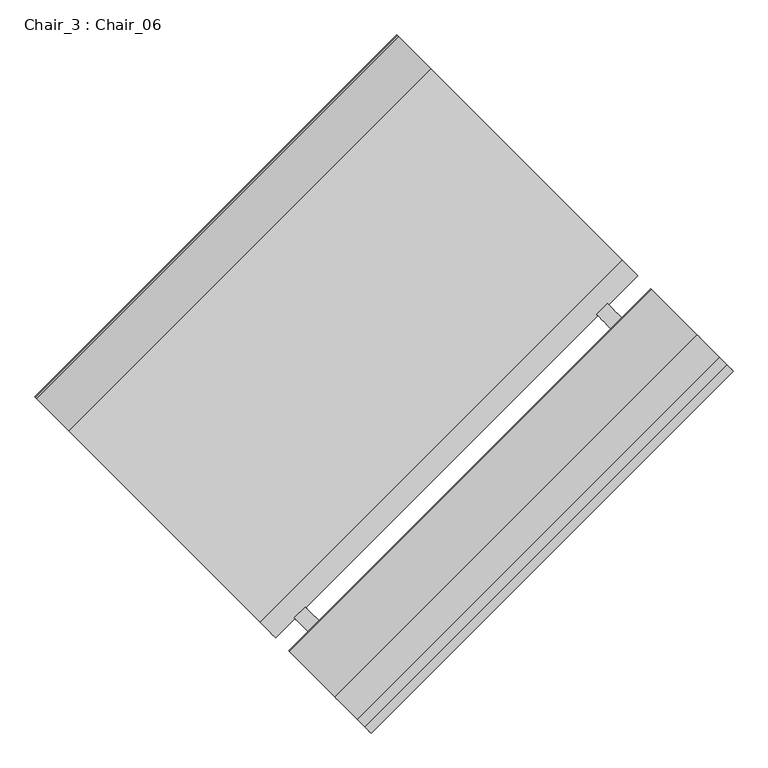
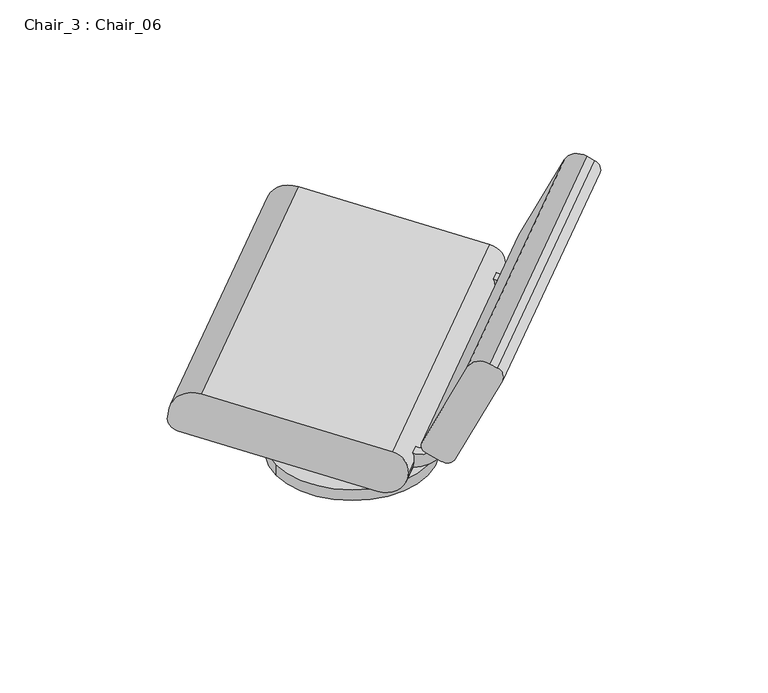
"""IFC4 building model written with IfcOpenShell, lengths in millimetres: furniture geometry, Chair_3 : Chair_06."""

import ifcopenshell
import ifcopenshell.guid

model = None  # the IFC model being written
_history = None  # IfcOwnerHistory: only IFC2X3 demands one
_inside = {}  # id of a spatial element -> (the spatial element, [elements in it])
_under = {}  # id of a project, library or spatial element -> (it, [spatial elements below it])
_declared = {}  # id of a project -> (the project, [libraries it declares])
_typed = {}  # id of a type object -> (the type object, [elements of that type])
_made_of = {}  # id of a material, layer set ... -> (it, [elements and type objects made of it])


def new_model(schema):
    """Start an empty IFC model of exactly this schema.

    Asked for "IFC4X3", IfcOpenShell would pick the latest addendum, in which some entities
    have other attributes; the version numbers below select the first issue.
    IFC2X3 requires an IfcOwnerHistory on every rooted entity: one is made here for all.
    """
    global model, _history
    if schema == "IFC4X3":
        model = ifcopenshell.file(schema_version=(4, 3, 0, 0))
    else:
        model = ifcopenshell.file(schema=schema)
    _inside.clear()
    _under.clear()
    _declared.clear()
    _typed.clear()
    _made_of.clear()
    _history = None
    if model.schema == "IFC2X3":
        org = make("IfcOrganization", Name="unknown")
        user = make(
            "IfcPersonAndOrganization",
            ThePerson=make("IfcPerson", FamilyName="unknown"),
            TheOrganization=org,
        )
        app = make(
            "IfcApplication",
            ApplicationDeveloper=org,
            Version="unknown",
            ApplicationFullName="unknown",
            ApplicationIdentifier="unknown",
        )
        _history = make(
            "IfcOwnerHistory",
            OwningUser=user,
            OwningApplication=app,
            ChangeAction="ADDED",
            CreationDate=0,
        )
    return model


def make(cls, **values):
    """One entity of the class cls with the attributes given. An attribute that is None is left unset."""
    return model.create_entity(
        cls, **{name: value for name, value in values.items() if value is not None}
    )


def rooted(cls, **values):
    """An entity with a GlobalId (a new one), such as an element, a storey or a relation."""
    return make(cls, GlobalId=ifcopenshell.guid.new(), OwnerHistory=_history, **values)


def si_unit(unit_type, name, prefix=None):
    """IfcSIUnit, for example si_unit("LENGTHUNIT", "METRE", prefix="MILLI")."""
    return make("IfcSIUnit", UnitType=unit_type, Prefix=prefix, Name=name)


def assignment(units):
    """IfcUnitAssignment: the units of a project."""
    return None if units is None else make("IfcUnitAssignment", Units=units)


def point(xyz):
    """IfcCartesianPoint."""
    return None if xyz is None else make("IfcCartesianPoint", Coordinates=xyz)


def direction(xyz):
    """IfcDirection."""
    return None if xyz is None else make("IfcDirection", DirectionRatios=xyz)


def frame(location, z_axis=None, x_axis=None):
    """IfcAxis2Placement3D, a coordinate frame: its origin and axes. An axis left out is left unset."""
    return make(
        "IfcAxis2Placement3D",
        Location=point(location),
        Axis=direction(z_axis),
        RefDirection=direction(x_axis),
    )


def frame_2d(location, x_axis=None):
    """IfcAxis2Placement2D, a coordinate frame in the plane: its origin and x axis."""
    return make(
        "IfcAxis2Placement2D", Location=point(location), RefDirection=direction(x_axis)
    )


def origin():
    """The frame at (0, 0, 0) with its axes left unset."""
    return frame((0.0, 0.0, 0.0))


def place(relative_to, where):
    """IfcLocalPlacement: puts the frame where relative to a parent placement (None: the world)."""
    return make(
        "IfcLocalPlacement", PlacementRelTo=relative_to, RelativePlacement=where
    )


def context(
    kind, dimensions, precision=None, world=None, true_north=None, identifier=None
):
    """IfcGeometricRepresentationContext, for example the 3D "Model" context."""
    return make(
        "IfcGeometricRepresentationContext",
        ContextIdentifier=identifier,
        ContextType=kind,
        CoordinateSpaceDimension=dimensions,
        Precision=precision,
        WorldCoordinateSystem=world,
        TrueNorth=true_north,
    )


def project(units=None, contexts=None):
    """IfcProject with its units and contexts."""
    return rooted(
        "IfcProject",
        Name="project",
        RepresentationContexts=contexts,
        UnitsInContext=assignment(units),
    )


def spatial(cls, under=None, at=None, **own):
    """A site, building, storey or space (cls), placed at a placement, below another one or the project."""
    s = rooted(cls, ObjectPlacement=at, **own)
    if under is not None:
        _under.setdefault(under.id(), (under, []))[1].append(s)
    return s


def polyline(points):
    """IfcPolyline through the points."""
    return make("IfcPolyline", Points=[point(p) for p in points])


def circle_curve(where, radius):
    """IfcCircle in the frame where."""
    return make("IfcCircle", Position=where, Radius=radius)


def ellipse_curve(where, semi_axis1, semi_axis2):
    """IfcEllipse in the frame where."""
    return make(
        "IfcEllipse", Position=where, SemiAxis1=semi_axis1, SemiAxis2=semi_axis2
    )


def trimmed(basis, trim1, trim2, sense, master):
    """IfcTrimmedCurve: the piece of a basis curve between two trims."""
    return make(
        "IfcTrimmedCurve",
        BasisCurve=basis,
        Trim1=trim1,
        Trim2=trim2,
        SenseAgreement=sense,
        MasterRepresentation=master,
    )


def segment(curve, same_sense, transition):
    """IfcCompositeCurveSegment."""
    return make(
        "IfcCompositeCurveSegment",
        Transition=transition,
        SameSense=same_sense,
        ParentCurve=curve,
    )


def composite_curve(segments, self_intersect=None):
    """IfcCompositeCurve: segments joined end to end."""
    return make("IfcCompositeCurve", Segments=segments, SelfIntersect=self_intersect)


def outline(outer, holes=None, kind="AREA"):
    """IfcArbitraryClosedProfileDef: a profile drawn as a closed curve; with holes, ...WithVoids."""
    if holes is None:
        return make("IfcArbitraryClosedProfileDef", ProfileType=kind, OuterCurve=outer)
    return make(
        "IfcArbitraryProfileDefWithVoids",
        ProfileType=kind,
        OuterCurve=outer,
        InnerCurves=holes,
    )


def extrude(swept, where, along, depth):
    """IfcExtrudedAreaSolid: the profile swept, set in the frame where, extruded along a direction by depth."""
    return make(
        "IfcExtrudedAreaSolid",
        SweptArea=swept,
        Position=where,
        ExtrudedDirection=direction(along),
        Depth=depth,
    )


def shape(context_of_items, identifier, shape_type, items):
    """IfcShapeRepresentation: the items that make up one representation, for example the "Body"."""
    return make(
        "IfcShapeRepresentation",
        ContextOfItems=context_of_items,
        RepresentationIdentifier=identifier,
        RepresentationType=shape_type,
        Items=items,
    )


def source(mapping_origin, context_of_items, identifier, shape_type, items):
    """IfcRepresentationMap: a shape defined once, which mapped items show again and again."""
    return make(
        "IfcRepresentationMap",
        MappingOrigin=mapping_origin,
        MappedRepresentation=shape(context_of_items, identifier, shape_type, items),
    )


def transform(
    local_origin,
    x_axis=None,
    y_axis=None,
    z_axis=None,
    scale=None,
    scale2=None,
    scale3=None,
    uniform=True,
):
    """IfcCartesianTransformationOperator3D, or its non-uniform kind. x_axis, y_axis, z_axis: its Axis1, 2, 3."""
    if uniform:
        return make(
            "IfcCartesianTransformationOperator3D",
            Axis1=direction(x_axis),
            Axis2=direction(y_axis),
            LocalOrigin=point(local_origin),
            Scale=scale,
            Axis3=direction(z_axis),
        )
    return make(
        "IfcCartesianTransformationOperator3DnonUniform",
        Axis1=direction(x_axis),
        Axis2=direction(y_axis),
        LocalOrigin=point(local_origin),
        Scale=scale,
        Axis3=direction(z_axis),
        Scale2=scale2,
        Scale3=scale3,
    )


def mapped(mapping_source, mapping_target):
    """IfcMappedItem: shows the shape of a source again, moved by a transform."""
    return make(
        "IfcMappedItem", MappingSource=mapping_source, MappingTarget=mapping_target
    )


def made_of(thing, what):
    """Note that an element or type object is made of a material, layer set ...; save() writes the relation."""
    if what is not None:
        _made_of.setdefault(what.id(), (what, []))[1].append(thing)
    return thing


def element(
    cls,
    number,
    at=None,
    inside=None,
    cuts=None,
    type_object=None,
    material=None,
    context=None,
    identifier="Body",
    shape_type=None,
    held_by="IfcProductDefinitionShape",
    body=None,
    shapes=None,
    **own,
):
    """One element of the class cls, such as IfcWall. Its Tag is "e" and its number.

    at: its placement. inside: the storey or other place that contains it. cuts: it is an
    opening in that element (IfcRelVoidsElement). A single representation is given by context,
    identifier, shape_type and body (its items); several are given by shapes. held_by: the class
    of the entity that holds the representations. save() writes the other relations.
    """
    e = rooted(cls, Tag="e%d" % number, ObjectPlacement=at, **own)
    if body is not None:
        shapes = [shape(context, identifier, shape_type, body)]
    if shapes is not None:
        e.Representation = make(held_by, Representations=shapes)
    if inside is not None:
        _inside.setdefault(inside.id(), (inside, []))[1].append(e)
    if cuts is not None:
        rooted(
            "IfcRelVoidsElement", RelatingBuildingElement=cuts, RelatedOpeningElement=e
        )
    if type_object is not None:
        _typed.setdefault(type_object.id(), (type_object, []))[1].append(e)
    return made_of(e, material)


def aggregate(whole, parts):
    """IfcRelAggregates: a whole, such as a stair, and the parts it consists of."""
    return rooted("IfcRelAggregates", RelatingObject=whole, RelatedObjects=parts)


def save(model, path):
    """Write the relations noted so far, then the file.

    IfcRelAggregates (storeys below a building ...), IfcRelContainedInSpatialStructure (elements
    in a storey), IfcRelDefinesByType, IfcRelAssociatesMaterial and IfcRelDeclares: one each for
    every whole, place, type object, material and project.
    """
    for whole, parts in _under.values():
        aggregate(whole, parts)
    for where, things in _inside.values():
        rooted(
            "IfcRelContainedInSpatialStructure",
            RelatedElements=things,
            RelatingStructure=where,
        )
    for kind, things in _typed.values():
        rooted("IfcRelDefinesByType", RelatedObjects=things, RelatingType=kind)
    for what, things in _made_of.values():
        rooted("IfcRelAssociatesMaterial", RelatedObjects=things, RelatingMaterial=what)
    for by, libraries in _declared.values():
        rooted("IfcRelDeclares", RelatingContext=by, RelatedDefinitions=libraries)
    model.write(path)


def plane_surface(at):
    """IfcPlane: the flat surface through the origin of the frame at, square to its z axis."""
    return make("IfcPlane", Position=at)


def cylinder_surface(at, radius):
    """IfcCylindricalSurface: all points at the distance radius from the z axis of the frame at."""
    return make("IfcCylindricalSurface", Position=at, Radius=radius)


def advanced_brep(points, edges, surfaces, faces):
    """IfcAdvancedBrep: a solid bounded by faces that lie on surfaces and meet in shared edges.

    An edge is (start, end): straight between two places in points (the first is 0);
    or (start, end, curve); or (start, end, curve, False) where it runs against its curve.
    A face is (place in surfaces, loops), or (place, loops, False) where it looks against
    its surface's normal. A loop lists edges by number (the first is 1), with a minus sign
    where the edge is run from its end to its start. The first loop is the outer one.
    """
    corners = [point(p) for p in points]
    vertices = [make("IfcVertexPoint", VertexGeometry=c) for c in corners]
    made = []
    for start, end, *more in edges:
        made.append(
            make(
                "IfcEdgeCurve",
                EdgeStart=vertices[start],
                EdgeEnd=vertices[end],
                EdgeGeometry=more[0] if more else make("IfcPolyline", Points=[corners[start], corners[end]]),
                SameSense=more[1] if len(more) > 1 else True,
            )
        )
    hull = []
    for where, loops, *sense in faces:
        bounds = []
        for j, loop in enumerate(loops):
            ring = [make("IfcOrientedEdge", EdgeElement=made[abs(k) - 1], Orientation=k > 0) for k in loop]
            bounds.append(
                make(
                    "IfcFaceOuterBound" if j == 0 else "IfcFaceBound",
                    Bound=make("IfcEdgeLoop", EdgeList=ring),
                    Orientation=True,
                )
            )
        hull.append(make("IfcAdvancedFace", Bounds=bounds, FaceSurface=surfaces[where], SameSense=sense[0] if sense else True))
    return make("IfcAdvancedBrep", Outer=make("IfcClosedShell", CfsFaces=hull))


def chair_3_chair_06_9fddb003(model_context):
    return source(origin(), model_context, "Body", "SolidModel", [
        advanced_brep(
        [(-1787.0925533, 12585.0920901, 8110.0251231), (-1727.0925533, 12585.0920901, 8110.0251231), (-1727.0925533, 12585.0920901, 8323.74706), (-1787.0925533, 12585.0920901, 8331.2279802), (-1952.2157383, 12580.2152751, 8110.0251231), (-1552.2157383, 12580.2152751, 8110.0251231), (-1952.2157383, 12580.2152751, 8080.0), (-1552.2157383, 12580.2152751, 8080.0), (-1305.5981526, 12724.6783945, 8410.4493871), (-1279.7872129, 12698.8674549, 8358.3188702), (-1281.62903, 12700.7092719, 8343.5467539), (-1330.7781527, 12749.8583946, 8294.8771794), (-1665.0272163, 13084.1074583, 8378.2268654), (-1682.2345094, 13101.3147513, 8412.9805434), (-1679.1648143, 13098.2450562, 8437.6007372), (-1625.9199314, 13045.0001734, 8490.3261096), (-1911.3664543, 12118.9100928, 8410.4493871), (-2231.6882332, 12439.2318716, 8490.3261096), (-2284.9331161, 12492.4767545, 8437.6007372), (-2288.0028112, 12495.5464496, 8412.9805434), (-2270.7955181, 12478.3391565, 8378.2268654), (-1936.5464544, 12144.0900928, 8294.8771794), (-1887.3973317, 12094.9409702, 8343.5467539), (-1885.5555147, 12093.0991531, 8358.3188702)],
        [
            (0, 1, circle_curve(frame((-1757.0925533, 12585.0920901, 8110.0251231), z_axis=(0.0, 0.0, 1.0), x_axis=(1.0, 0.0, 0.0)), 30.0)),
            (1, 2),
            (2, 3, ellipse_curve(frame((-1757.0925533, 12585.0920901, 8327.4875201), z_axis=(-0.1227878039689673, 0.12278780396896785, -0.9848077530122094), x_axis=(-0.6963642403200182, 0.6963642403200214, 0.17364817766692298)), 30.4627984, 30.0)),
            (3, 0),
            (1, 0, circle_curve(frame((-1757.0925533, 12585.0920901, 8110.0251231), z_axis=(0.0, 0.0, 1.0), x_axis=(1.0, 0.0, 0.0)), 30.0)),
            (3, 2, ellipse_curve(frame((-1757.0925533, 12585.0920901, 8327.4875201), z_axis=(-0.1227878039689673, 0.12278780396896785, -0.9848077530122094), x_axis=(-0.6963642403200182, 0.6963642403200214, 0.17364817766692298)), 30.4627984, 30.0)),
            (4, 5, circle_curve(frame((-1752.2157383, 12580.2152751, 8110.0251231), z_axis=(0.0, 0.0, 1.0), x_axis=(1.0, 0.0, 0.0)), 200.0)),
            (5, 4, circle_curve(frame((-1752.2157383, 12580.2152751, 8110.0251231), z_axis=(0.0, 0.0, 1.0), x_axis=(1.0, 0.0, 0.0)), 200.0)),
            (6, 7, circle_curve(frame((-1752.2157383, 12580.2152751, 8080.0), z_axis=(0.0, 0.0, -1.0), x_axis=(1.0, 0.0, 0.0)), 200.0)),
            (7, 6, circle_curve(frame((-1752.2157383, 12580.2152751, 8080.0), z_axis=(0.0, 0.0, -1.0), x_axis=(1.0, 0.0, 0.0)), 200.0)),
            (4, 6),
            (7, 5),
            (8, 9, circle_curve(frame((-1311.1236038, 12730.2038457, 8366.1330382), z_axis=(0.7071067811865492, 0.7071067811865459, 0.0), x_axis=(0.7071067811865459, -0.7071067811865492, 0.0)), 45.0)),
            (9, 10),
            (10, 11, circle_curve(frame((-1323.4108844, 12742.4911263, 8353.9656446), z_axis=(0.7071067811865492, 0.7071067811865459, 0.0), x_axis=(0.7071067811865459, -0.7071067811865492, 0.0)), 60.0)),
            (11, 12),
            (12, 13, circle_curve(frame((-1661.3435822, 13080.4238241, 8407.771098), z_axis=(0.7071067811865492, 0.7071067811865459, 0.0), x_axis=(0.7071067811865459, -0.7071067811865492, 0.0)), 30.0)),
            (13, 14),
            (14, 15, circle_curve(frame((-1633.9011387, 13052.9813806, 8426.3136056), z_axis=(0.7071067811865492, 0.7071067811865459, 0.0), x_axis=(0.7071067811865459, -0.7071067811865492, 0.0)), 65.0)),
            (15, 8),
            (16, 17),
            (17, 18, circle_curve(frame((-2239.6694405, 12447.2130789, 8426.3136056), z_axis=(-0.7071067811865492, -0.7071067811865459, 0.0), x_axis=(0.7071067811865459, -0.7071067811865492, 0.0)), 65.0)),
            (18, 19),
            (19, 20, circle_curve(frame((-2267.111884, 12474.6555224, 8407.771098), z_axis=(-0.7071067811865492, -0.7071067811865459, 0.0), x_axis=(0.7071067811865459, -0.7071067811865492, 0.0)), 30.0)),
            (20, 21),
            (21, 22, circle_curve(frame((-1929.1791862, 12136.7228246, 8353.9656446), z_axis=(-0.7071067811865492, -0.7071067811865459, 0.0), x_axis=(0.7071067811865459, -0.7071067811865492, 0.0)), 60.0)),
            (22, 23),
            (23, 16, circle_curve(frame((-1916.8919055, 12124.4355439, 8366.1330382), z_axis=(-0.7071067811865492, -0.7071067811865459, 0.0), x_axis=(0.7071067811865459, -0.7071067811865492, 0.0)), 45.0)),
            (8, 16),
            (23, 9),
            (22, 10),
            (21, 11),
            (20, 12),
            (19, 13),
            (18, 14),
            (17, 15),
        ],
        [
            cylinder_surface(frame((-1757.0925533, 12585.0920901, 8110.0251231), z_axis=(0.0, 0.0, 1.0), x_axis=(1.0, 0.0, 0.0)), 30.0),
            plane_surface(frame((-1552.2157383, 12580.2152751, 8110.0251231), z_axis=(0.0, 0.0, 1.0), x_axis=(0.0, 1.0, 0.0))),
            plane_surface(frame((-1552.2157383, 12580.2152751, 8080.0), z_axis=(0.0, 0.0, -1.0), x_axis=(0.0, -1.0, 0.0))),
            cylinder_surface(frame((-1752.2157383, 12580.2152751, 8080.0), z_axis=(0.0, 0.0, 1.0), x_axis=(1.0, 0.0, 0.0)), 200.0),
            plane_surface(frame((-1279.3037986, 12698.3840405, 8366.1330382), z_axis=(0.7071067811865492, 0.7071067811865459, 0.0), x_axis=(0.0, 0.0, -1.0))),
            plane_surface(frame((-1885.0721004, 12092.6157388, 8366.1330382), z_axis=(-0.7071067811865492, -0.7071067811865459, 0.0), x_axis=(0.0, 0.0, 1.0))),
            cylinder_surface(frame((-1916.8919055, 12124.4355439, 8366.1330382), z_axis=(0.7071067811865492, 0.7071067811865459, 0.0), x_axis=(0.7071067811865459, -0.7071067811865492, 0.0)), 45.0),
            plane_surface(frame((-1279.7872129, 12698.8674549, 8358.3188702), z_axis=(0.6963642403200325, -0.6963642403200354, -0.17364817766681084), x_axis=(-0.707106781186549, -0.7071067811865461, 0.0))),
            cylinder_surface(frame((-1929.1791862, 12136.7228246, 8353.9656446), z_axis=(0.7071067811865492, 0.7071067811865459, 0.0), x_axis=(0.7071067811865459, -0.7071067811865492, 0.0)), 60.0),
            plane_surface(frame((-1330.7781527, 12749.8583946, 8294.8771794), z_axis=(-0.1227878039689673, 0.12278780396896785, -0.9848077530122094), x_axis=(-0.7071067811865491, -0.7071067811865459, 0.0))),
            cylinder_surface(frame((-2267.111884, 12474.6555224, 8407.771098), z_axis=(0.7071067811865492, 0.7071067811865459, 0.0), x_axis=(0.7071067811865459, -0.7071067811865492, 0.0)), 30.0),
            plane_surface(frame((-1682.2345094, 13101.3147513, 8412.9805434), z_axis=(-0.6963642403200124, 0.6963642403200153, 0.17364817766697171), x_axis=(-0.707106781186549, -0.7071067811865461, 0.0))),
            cylinder_surface(frame((-2239.6694405, 12447.2130789, 8426.3136056), z_axis=(0.7071067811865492, 0.7071067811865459, 0.0), x_axis=(0.7071067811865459, -0.7071067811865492, 0.0)), 65.0),
            plane_surface(frame((-1625.9199314, 13045.0001734, 8490.3261096), z_axis=(0.12278780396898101, -0.12278780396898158, 0.9848077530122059), x_axis=(-0.7071067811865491, -0.7071067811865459, 0.0))),
        ],
        [
            (0, [[1, 2, 3, 4]]),
            (0, [[5, -4, 6, -2]]),
            (1, [[7, 8], [-1, -5]]),
            (2, [[9, 10]]),
            (3, [[-7, 11, -10, 12]]),
            (3, [[-8, -12, -9, -11]]),
            (4, [[13, 14, 15, 16, 17, 18, 19, 20]]),
            (5, [[21, 22, 23, 24, 25, 26, 27, 28]]),
            (6, [[-13, 29, -28, 30]]),
            (7, [[-14, -30, -27, 31]]),
            (8, [[-15, -31, -26, 32]]),
            (9, [[-16, -32, -25, 33], [-3, -6]]),
            (10, [[-17, -33, -24, 34]]),
            (11, [[-18, -34, -23, 35]]),
            (12, [[-19, -35, -22, 36]]),
            (13, [[-20, -36, -21, -29]]),
        ],
    ),
        advanced_brep(
        [(-1200.694945, 12619.7751869, 8417.9342607), (-1224.1872605, 12643.2675025, 8405.8420226), (-1249.8215158, 12668.9017577, 8422.746753), (-1256.6619187, 12675.7421606, 8449.325274), (-1180.7386641, 12599.818906, 8679.5846199), (-1143.1509593, 12562.2312012, 8698.9322009), (-1130.3338316, 12549.4140735, 8690.4798357), (-1121.783328, 12540.86357, 8657.2566845), (-1806.4632468, 12014.0068852, 8417.9342607), (-1727.5516298, 11935.0952682, 8657.2566845), (-1736.1021334, 11943.6457718, 8690.4798357), (-1748.919261, 11956.4628994, 8698.9322009), (-1786.5069658, 11994.0506043, 8679.5846199), (-1862.4302204, 12069.9738589, 8449.325274), (-1855.5898176, 12063.133456, 8422.746753), (-1829.9555623, 12037.4992007, 8405.8420226)],
        [
            (0, 1, circle_curve(frame((-1216.7163546, 12635.7965965, 8428.4997173), z_axis=(0.7071067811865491, 0.7071067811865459, 0.0), x_axis=(0.7071067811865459, -0.7071067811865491, 0.0)), 25.0)),
            (1, 2),
            (2, 3, circle_curve(frame((-1243.844791, 12662.925033, 8440.8729088), z_axis=(0.7071067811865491, 0.7071067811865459, 0.0), x_axis=(0.7071067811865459, -0.7071067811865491, 0.0)), 20.0)),
            (3, 4),
            (4, 5, circle_curve(frame((-1155.1044088, 12574.1846507, 8662.6798894), z_axis=(0.7071067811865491, 0.7071067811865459, 0.0), x_axis=(0.7071067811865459, -0.7071067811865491, 0.0)), 40.0)),
            (5, 6),
            (6, 7, circle_curve(frame((-1137.8047376, 12556.8849795, 8667.822141), z_axis=(0.7071067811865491, 0.7071067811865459, 0.0), x_axis=(0.7071067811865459, -0.7071067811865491, 0.0)), 25.0)),
            (7, 0),
            (8, 9),
            (9, 10, circle_curve(frame((-1743.5730393, 11951.1166778, 8667.822141), z_axis=(-0.7071067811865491, -0.7071067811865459, 0.0), x_axis=(0.7071067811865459, -0.7071067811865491, 0.0)), 25.0)),
            (10, 11),
            (11, 12, circle_curve(frame((-1760.8727106, 11968.416349, 8662.6798894), z_axis=(-0.7071067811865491, -0.7071067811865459, 0.0), x_axis=(0.7071067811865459, -0.7071067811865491, 0.0)), 40.0)),
            (12, 13),
            (13, 14, circle_curve(frame((-1849.6130928, 12057.1567312, 8440.8729088), z_axis=(-0.7071067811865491, -0.7071067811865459, 0.0), x_axis=(0.7071067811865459, -0.7071067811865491, 0.0)), 20.0)),
            (14, 15),
            (15, 8, circle_curve(frame((-1822.4846563, 12030.0282947, 8428.4997173), z_axis=(-0.7071067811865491, -0.7071067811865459, 0.0), x_axis=(0.7071067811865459, -0.7071067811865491, 0.0)), 25.0)),
            (0, 8),
            (15, 1),
            (14, 2),
            (13, 3),
            (12, 4),
            (11, 5),
            (10, 6),
            (9, 7),
        ],
        [
            plane_surface(frame((-1279.3037986, 12698.3840405, 8366.1330382), z_axis=(0.7071067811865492, 0.7071067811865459, 0.0), x_axis=(0.0, 0.0, -1.0))),
            plane_surface(frame((-1885.0721004, 12092.6157388, 8366.1330382), z_axis=(-0.7071067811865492, -0.7071067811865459, 0.0), x_axis=(0.0, 0.0, 1.0))),
            cylinder_surface(frame((-1512.2567071, 12340.2562439, 8428.4997173), z_axis=(0.7071067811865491, 0.7071067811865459, 0.0), x_axis=(0.7071067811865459, -0.7071067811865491, 0.0)), 25.0),
            plane_surface(frame((-1224.1872605, 12643.2675025, 8405.8420226), z_axis=(-0.2988362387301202, 0.2988362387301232, -0.9063077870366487), x_axis=(-0.707106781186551, -0.707106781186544, 0.0))),
            cylinder_surface(frame((-1539.3851436, 12367.3846804, 8440.8729088), z_axis=(0.7071067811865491, 0.7071067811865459, 0.0), x_axis=(0.7071067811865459, -0.7071067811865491, 0.0)), 20.0),
            plane_surface(frame((-1256.6619187, 12675.7421606, 8449.325274), z_axis=(-0.6408563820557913, 0.6408563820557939, 0.4226182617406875), x_axis=(-0.707106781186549, -0.7071067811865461, 0.0))),
            cylinder_surface(frame((-1450.6447614, 12278.6442982, 8662.6798894), z_axis=(0.7071067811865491, 0.7071067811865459, 0.0), x_axis=(0.7071067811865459, -0.7071067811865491, 0.0)), 40.0),
            plane_surface(frame((-1143.1509593, 12562.2312012, 8698.9322009), z_axis=(0.2988362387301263, -0.29883623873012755, 0.9063077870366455), x_axis=(-0.707106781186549, -0.7071067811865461, 0.0))),
            cylinder_surface(frame((-1433.3450901, 12261.3446269, 8667.822141), z_axis=(0.7071067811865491, 0.7071067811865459, 0.0), x_axis=(0.7071067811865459, -0.7071067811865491, 0.0)), 25.0),
            plane_surface(frame((-1121.783328, 12540.86357, 8657.2566845), z_axis=(0.6408563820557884, -0.6408563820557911, -0.422618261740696), x_axis=(-0.707106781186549, -0.7071067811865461, 0.0))),
        ],
        [
            (0, [[1, 2, 3, 4, 5, 6, 7, 8]]),
            (1, [[9, 10, 11, 12, 13, 14, 15, 16]]),
            (2, [[-1, 17, -16, 18]]),
            (3, [[-2, -18, -15, 19]]),
            (4, [[-3, -19, -14, 20]]),
            (5, [[-4, -20, -13, 21]]),
            (6, [[-5, -21, -12, 22]]),
            (7, [[-6, -22, -11, 23]]),
            (8, [[-7, -23, -10, 24]]),
            (9, [[-8, -24, -9, -17]]),
        ],
    ),
        extrude(outline(composite_curve([segment(trimmed(circle_curve(frame_2d((-78.344767, 36.2656111)), 100.1420993), [point((15.0, 1e-07))], [point((-62.2269555, -62.5709015))], False, "CARTESIAN"), True, "CONTINUOUS"), segment(polyline([(-62.2269555, -62.5709015), (-70.8079228, -30.5462954)]), True, "CONTINUOUS"), segment(trimmed(circle_curve(frame_2d((-58.5809418, 1.1899932)), 34.0101614), [point((-70.8079228, -30.5462954))], [point((-25.2036058, 7.7202702))], True, "CARTESIAN"), True, "CONTINUOUS"), segment(trimmed(circle_curve(frame_2d((0.0, 45.0000001)), 45.0), [point((-25.2036058, 7.7202702))], [point((0.0, 0.0))], True, "CARTESIAN"), True, "CONTINUOUS"), segment(polyline([(0.0, 0.0), (15.0, 1e-07)]), True, "CONTINUOUS")], self_intersect=False)), frame((-1851.9319947, 12123.7461104, 8358.3188702), z_axis=(0.7071067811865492, 0.7071067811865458, 0.0), x_axis=(-0.1227878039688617, 0.12278780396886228, -0.9848077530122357)), (0.0, 0.0, 1.0), 25.7839497),
        extrude(outline(composite_curve([segment(trimmed(circle_curve(frame_2d((-78.344767, 36.2656111)), 100.1420993), [point((15.0, 0.0))], [point((-62.2269555, -62.5709015))], False, "CARTESIAN"), True, "CONTINUOUS"), segment(polyline([(-62.2269555, -62.5709015), (-70.8079228, -30.5462954)]), True, "CONTINUOUS"), segment(trimmed(circle_curve(frame_2d((-58.5809418, 1.1899932)), 34.0101614), [point((-70.8079228, -30.5462954))], [point((-25.2036058, 7.7202702))], True, "CARTESIAN"), True, "CONTINUOUS"), segment(trimmed(circle_curve(frame_2d((0.0, 45.0)), 45.0), [point((-25.2036058, 7.7202702))], [point((0.0, 0.0))], True, "CARTESIAN"), True, "CONTINUOUS"), segment(polyline([(0.0, 0.0), (15.0, 0.0)]), True, "CONTINUOUS")], self_intersect=False)), frame((-1346.6029967, 12632.0516711, 8358.3188702), z_axis=(0.7071067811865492, 0.7071067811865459, 0.0), x_axis=(-0.12278780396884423, 0.1227878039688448, -0.9848077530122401)), (0.0, 0.0, 1.0), 25.7839497),
    ])


if __name__ == "__main__":
    model = new_model("IFC4")
    model_context = context("Model", 3, world=origin())
    ifc_project = project(units=[si_unit("LENGTHUNIT", "METRE", prefix="MILLI")], contexts=[model_context])
    site = spatial("IfcSite", under=ifc_project)
    building = spatial("IfcBuilding", under=site)
    placement = place(None, origin())
    chair_3_chair_06_shape = chair_3_chair_06_9fddb003(model_context)
    element("IfcFurniture", 1, ObjectType="Chair_3 : Chair_06", at=placement, inside=building, context=model_context, shape_type="MappedRepresentation", body=[
        mapped(chair_3_chair_06_shape, transform((0.0, 0.0, 0.0), x_axis=(1.0, 0.0, 0.0), y_axis=(0.0, 1.0, 0.0), z_axis=(0.0, 0.0, 1.0))),
    ])
    save(model, "model.ifc")
